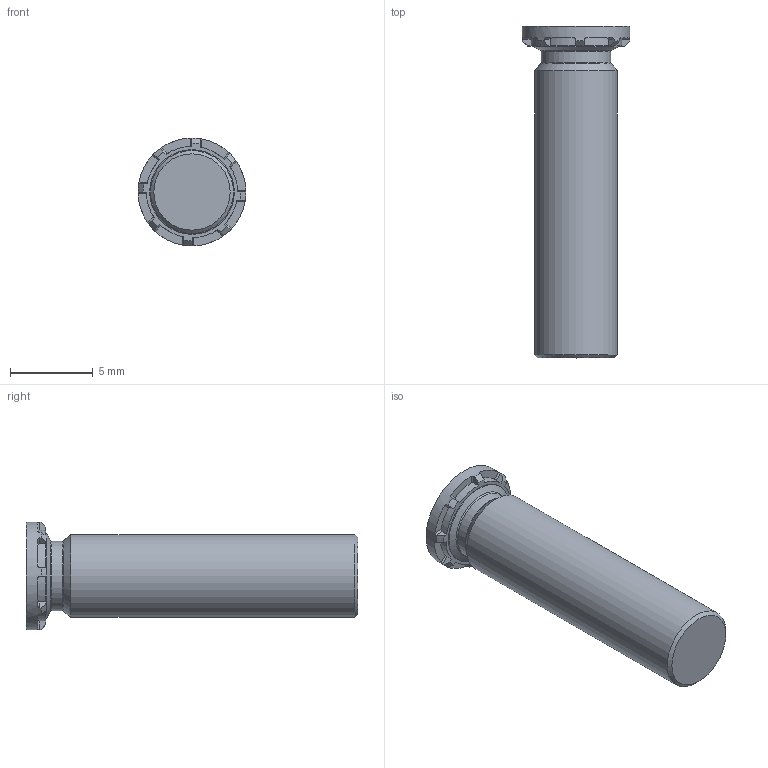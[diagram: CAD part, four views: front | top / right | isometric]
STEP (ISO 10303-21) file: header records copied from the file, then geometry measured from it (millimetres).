
FILE_DESCRIPTION(/* description */ (''),/* implementation_level */ '2;1');
FILE_NAME(/* name */ 'C:\Users\keval.kumar\Desktop\Fastit\Clinch Screw- FH Range\M5\Clinch Screw-FH Range_M5x20.stp',/* time_stamp */ '2024-03-12T12:02:13+06:00',/* author */ ('keval.kumar'),/* organization */ (''),/* preprocessor_version */ 'ST-DEVELOPER v18.1',/* originating_system */ 'Autodesk Inventor 2022',/* authorisation */ '');
FILE_SCHEMA (('AUTOMOTIVE_DESIGN { 1 0 10303 214 3 1 1 }'));
Length unit declared in the file: millimetre
Products named in the file (1): Clinch Screw-FH Range_M5x20
Bounding box: 6.5 x 20 x 6.5 mm (x, y, z)
Volume: 398.5 mm3; surface area: 387.3 mm2
Topology: 1 solids, 1 shells, 68 faces, 193 edges, 128 vertices
Faces by surface type: plane 43, cylinder 12, cone 11, torus 2
Full cylindrical faces by diameter (mm): 4.2 x1, 5 x1, 5.1 x1, 6.5 x1
Entity records: 2286 total; most frequent: DIRECTION 413, CARTESIAN_POINT 406, ORIENTED_EDGE 386, EDGE_CURVE 193, AXIS2_PLACEMENT_3D 159, VERTEX_POINT 128, LINE 95, VECTOR 95
